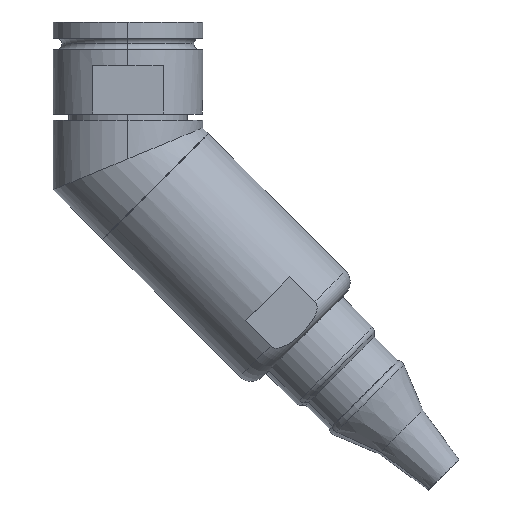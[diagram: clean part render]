
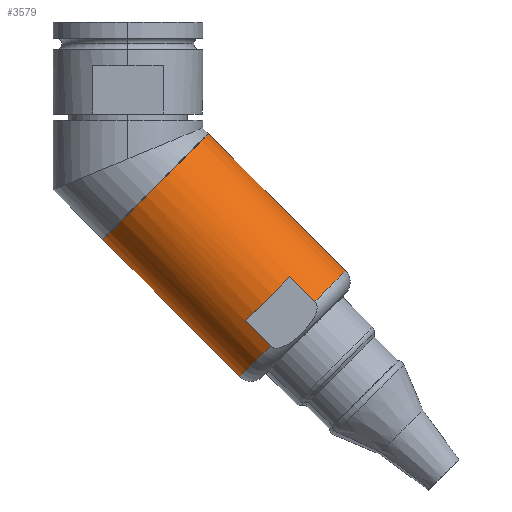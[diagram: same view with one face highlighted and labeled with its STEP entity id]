
A CAD part, left-side view. The second image highlights one B-rep face of the part: STEP entity #3579.
In plain terms, the highlighted cylindrical face has radius 14.77 mm (diameter 29.54 mm), a partial arc.
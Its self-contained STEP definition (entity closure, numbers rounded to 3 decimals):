
#5 = VERTEX_POINT ( 'NONE', #1882 ) ;
#32 = DIRECTION ( 'NONE',  ( 0., 0.707, 0.707 ) ) ;
#61 = DIRECTION ( 'NONE',  ( 0., 0.707, 0.707 ) ) ;
#181 = CARTESIAN_POINT ( 'NONE',  ( 0., -15.938, -16.407 ) ) ;
#205 = DIRECTION ( 'NONE',  ( 0., 0.707, 0.707 ) ) ;
#210 = ORIENTED_EDGE ( 'NONE', *, *, #2599, .F. ) ;
#223 = EDGE_LOOP ( 'NONE', ( #6902, #343, #5513, #210, #1175, #5062, #5944, #5185 ) ) ;
#229 = DIRECTION ( 'NONE',  ( 0., -0.707, -0.707 ) ) ;
#339 = CIRCLE ( 'NONE', #2828, 14.77 ) ;
#343 = ORIENTED_EDGE ( 'NONE', *, *, #5401, .T. ) ;
#369 = CARTESIAN_POINT ( 'NONE',  ( -13.399, -31.98, -44.548 ) ) ;
#587 = VECTOR ( 'NONE', #2346, 1000. ) ;
#891 = DIRECTION ( 'NONE',  ( 0., -0.707, 0.707 ) ) ;
#980 = AXIS2_PLACEMENT_3D ( 'NONE', #1859, #6163, #1395 ) ;
#1130 = DIRECTION ( 'NONE',  ( 0., -0.707, 0.707 ) ) ;
#1175 = ORIENTED_EDGE ( 'NONE', *, *, #3721, .T. ) ;
#1229 = AXIS2_PLACEMENT_3D ( 'NONE', #2326, #32, #1130 ) ;
#1288 = CARTESIAN_POINT ( 'NONE',  ( 0., 4.951, -37.296 ) ) ;
#1318 = VERTEX_POINT ( 'NONE', #4316 ) ;
#1395 = DIRECTION ( 'NONE',  ( 0., -0.707, 0.707 ) ) ;
#1859 = CARTESIAN_POINT ( 'NONE',  ( 0., -5.493, -26.851 ) ) ;
#1882 = CARTESIAN_POINT ( 'NONE',  ( 0., -15.938, -16.407 ) ) ;
#2054 = EDGE_CURVE ( 'NONE', #6776, #5, #2873, .T. ) ;
#2326 = CARTESIAN_POINT ( 'NONE',  ( 0., -5.493, -26.851 ) ) ;
#2346 = DIRECTION ( 'NONE',  ( 0., 0.707, 0.707 ) ) ;
#2357 = VERTEX_POINT ( 'NONE', #3401 ) ;
#2599 = EDGE_CURVE ( 'NONE', #2357, #6115, #5443, .T. ) ;
#2671 = CARTESIAN_POINT ( 'NONE',  ( -13.399, -36.919, -49.487 ) ) ;
#2753 = LINE ( 'NONE', #1288, #6668 ) ;
#2791 = DIRECTION ( 'NONE',  ( 0., -0.707, -0.707 ) ) ;
#2828 = AXIS2_PLACEMENT_3D ( 'NONE', #6675, #205, #4680 ) ;
#2873 = LINE ( 'NONE', #181, #587 ) ;
#3017 = LINE ( 'NONE', #369, #3390 ) ;
#3274 = AXIS2_PLACEMENT_3D ( 'NONE', #6464, #3744, #4849 ) ;
#3390 = VECTOR ( 'NONE', #229, 1000. ) ;
#3401 = CARTESIAN_POINT ( 'NONE',  ( -13.399, -31.98, -44.548 ) ) ;
#3579 = ADVANCED_FACE ( 'NONE', ( #5998 ), #6128, .T. ) ;
#3598 = CARTESIAN_POINT ( 'NONE',  ( 0., 4.951, -37.296 ) ) ;
#3721 = EDGE_CURVE ( 'NONE', #2357, #4374, #3017, .T. ) ;
#3744 = DIRECTION ( 'NONE',  ( 0., -0.707, -0.707 ) ) ;
#4045 = AXIS2_PLACEMENT_3D ( 'NONE', #6345, #6739, #891 ) ;
#4238 = EDGE_CURVE ( 'NONE', #6135, #5, #6892, .T. ) ;
#4316 = CARTESIAN_POINT ( 'NONE',  ( -13.399, -28.129, -58.277 ) ) ;
#4374 = VERTEX_POINT ( 'NONE', #2671 ) ;
#4467 = LINE ( 'NONE', #4499, #6355 ) ;
#4499 = CARTESIAN_POINT ( 'NONE',  ( -13.399, -23.19, -53.338 ) ) ;
#4680 = DIRECTION ( 'NONE',  ( 0., -0.707, 0.707 ) ) ;
#4849 = DIRECTION ( 'NONE',  ( 0., -0.707, 0.707 ) ) ;
#4907 = EDGE_CURVE ( 'NONE', #6115, #1318, #4467, .T. ) ;
#4922 = EDGE_CURVE ( 'NONE', #4374, #6776, #339, .T. ) ;
#5062 = ORIENTED_EDGE ( 'NONE', *, *, #4922, .T. ) ;
#5185 = ORIENTED_EDGE ( 'NONE', *, *, #4238, .F. ) ;
#5311 = EDGE_CURVE ( 'NONE', #5826, #6135, #2753, .T. ) ;
#5401 = EDGE_CURVE ( 'NONE', #5826, #1318, #5746, .T. ) ;
#5443 = CIRCLE ( 'NONE', #3274, 14.77 ) ;
#5513 = ORIENTED_EDGE ( 'NONE', *, *, #4907, .F. ) ;
#5746 = CIRCLE ( 'NONE', #4045, 14.77 ) ;
#5826 = VERTEX_POINT ( 'NONE', #6865 ) ;
#5944 = ORIENTED_EDGE ( 'NONE', *, *, #2054, .T. ) ;
#5998 = FACE_OUTER_BOUND ( 'NONE', #223, .T. ) ;
#6115 = VERTEX_POINT ( 'NONE', #6269 ) ;
#6128 = CYLINDRICAL_SURFACE ( 'NONE', #1229, 14.77 ) ;
#6135 = VERTEX_POINT ( 'NONE', #3598 ) ;
#6163 = DIRECTION ( 'NONE',  ( 0., 0.707, 0.707 ) ) ;
#6269 = CARTESIAN_POINT ( 'NONE',  ( -13.399, -23.19, -53.338 ) ) ;
#6345 = CARTESIAN_POINT ( 'NONE',  ( 0., -32.524, -53.882 ) ) ;
#6355 = VECTOR ( 'NONE', #2791, 1000. ) ;
#6464 = CARTESIAN_POINT ( 'NONE',  ( 0., -27.585, -48.943 ) ) ;
#6668 = VECTOR ( 'NONE', #61, 1000. ) ;
#6675 = CARTESIAN_POINT ( 'NONE',  ( 0., -32.524, -53.882 ) ) ;
#6739 = DIRECTION ( 'NONE',  ( 0., 0.707, 0.707 ) ) ;
#6776 = VERTEX_POINT ( 'NONE', #6896 ) ;
#6865 = CARTESIAN_POINT ( 'NONE',  ( 0., -22.08, -64.326 ) ) ;
#6892 = CIRCLE ( 'NONE', #980, 14.77 ) ;
#6896 = CARTESIAN_POINT ( 'NONE',  ( 0., -42.968, -43.438 ) ) ;
#6902 = ORIENTED_EDGE ( 'NONE', *, *, #5311, .F. ) ;
